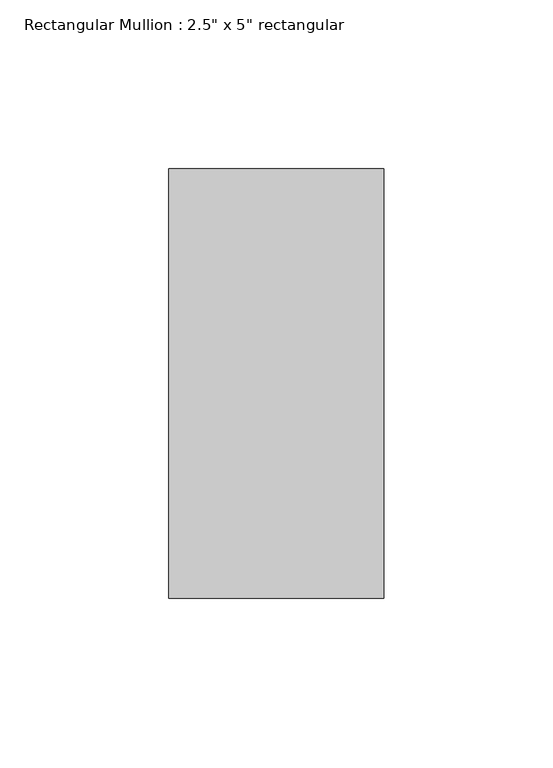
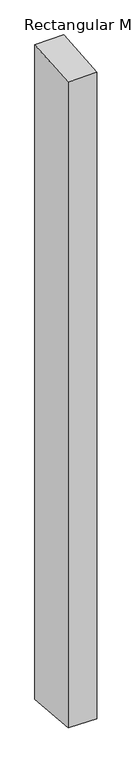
"""IFC4 building model written with IfcOpenShell, lengths in millimetres: member geometry."""

from ifc_helpers import new_model, si_unit, origin, place, context, project, spatial, faceted_brep, source, transform, mapped, element, save


def member_1ac3cc72(model_context):
    return source(origin(), model_context, "Body", "Brep", [
        faceted_brep([(-63.5, 63.5, 4.0913464), (0.0, 63.5, 5.1943233), (0.0, 63.5, -1529.1943233), (-63.5, 63.5, -1528.0913464), (-63.5, -63.5, -6.2973002), (-63.5, -63.5, -1517.7026998), (0.0, -63.5, -5.1943233), (0.0, -63.5, -1518.8056767)], [[[0, 1, 2, 3]], [[4, 0, 3, 5]], [[6, 4, 5, 7]], [[1, 6, 7, 2]], [[1, 0, 4, 6]], [[2, 7, 5, 3]]]),
    ])


if __name__ == "__main__":
    model = new_model("IFC4")
    model_context = context("Model", 3, world=origin())
    ifc_project = project(units=[si_unit("LENGTHUNIT", "METRE", prefix="MILLI")], contexts=[model_context])
    site = spatial("IfcSite", under=ifc_project)
    building = spatial("IfcBuilding", under=site)
    placement = place(None, origin())
    member_shape = member_1ac3cc72(model_context)
    element("IfcMember", 1, ObjectType="Rectangular Mullion : 2.5\" x 5\" rectangular", at=placement, inside=building, context=model_context, shape_type="MappedRepresentation", body=[
        mapped(member_shape, transform((0.0, 0.0, 0.0), x_axis=(1.0, 0.0, 0.0), y_axis=(0.0, 1.0, 0.0), z_axis=(0.0, 0.0, 1.0))),
    ])
    save(model, "model.ifc")
